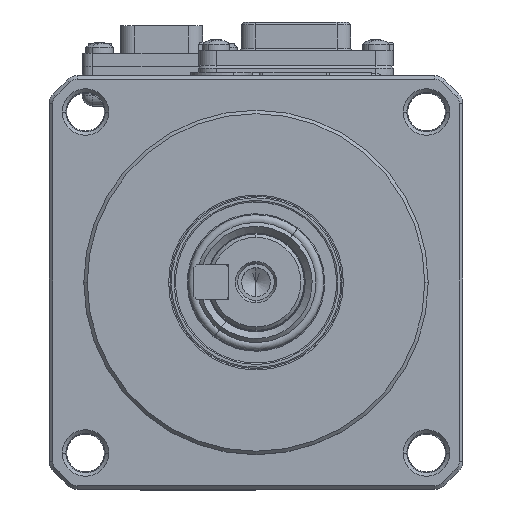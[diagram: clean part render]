
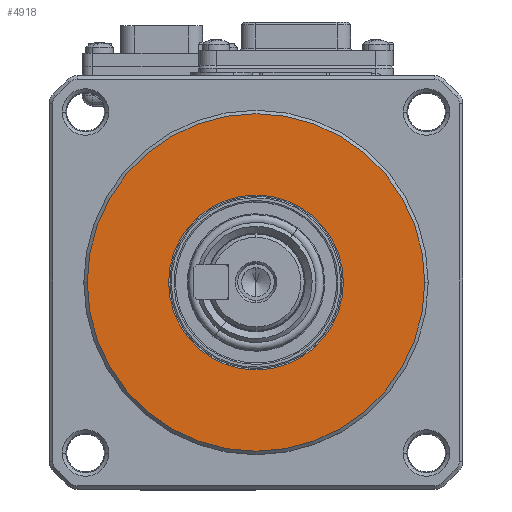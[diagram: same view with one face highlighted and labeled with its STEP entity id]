
A CAD part, top view. The second image highlights one B-rep face of the part: STEP entity #4918.
In plain terms, the highlighted planar face has unit normal (0, 0, 1).
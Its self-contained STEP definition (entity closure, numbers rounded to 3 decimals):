
#1797 = EDGE_CURVE ( 'NONE', #26135, #56628, #40972, .T. ) ;
#4918 = ADVANCED_FACE ( 'NONE', ( #84028, #82511 ), #91890, .F. ) ;
#5867 = DIRECTION ( 'NONE',  ( -1., 0., 0. ) ) ;
#11244 = CARTESIAN_POINT ( 'NONE',  ( 0., 0., 0. ) ) ;
#12859 = VERTEX_POINT ( 'NONE', #49677 ) ;
#13506 = DIRECTION ( 'NONE',  ( -1., 0., 0. ) ) ;
#14024 = DIRECTION ( 'NONE',  ( 0., 0., -1. ) ) ;
#17570 = CIRCLE ( 'NONE', #34145, 24.5 ) ;
#18345 = DIRECTION ( 'NONE',  ( -1., 0., 0. ) ) ;
#20373 = CARTESIAN_POINT ( 'NONE',  ( 0., 12.2, 0. ) ) ;
#26135 = VERTEX_POINT ( 'NONE', #88997 ) ;
#31435 = EDGE_CURVE ( 'NONE', #76419, #12859, #32876, .T. ) ;
#32876 = CIRCLE ( 'NONE', #61179, 12.691 ) ;
#34145 = AXIS2_PLACEMENT_3D ( 'NONE', #11244, #42492, #42991 ) ;
#36594 = CARTESIAN_POINT ( 'NONE',  ( 24.5, 0., 0. ) ) ;
#39343 = AXIS2_PLACEMENT_3D ( 'NONE', #45223, #59858, #77077 ) ;
#40972 = CIRCLE ( 'NONE', #39343, 24.5 ) ;
#42492 = DIRECTION ( 'NONE',  ( 0., 0., 1. ) ) ;
#42589 = ORIENTED_EDGE ( 'NONE', *, *, #89487, .T. ) ;
#42991 = DIRECTION ( 'NONE',  ( 1., 0., 0. ) ) ;
#45223 = CARTESIAN_POINT ( 'NONE',  ( 0., 0., 0. ) ) ;
#47863 = EDGE_LOOP ( 'NONE', ( #42589, #53771 ) ) ;
#49677 = CARTESIAN_POINT ( 'NONE',  ( -12.691, 0., 0. ) ) ;
#53771 = ORIENTED_EDGE ( 'NONE', *, *, #31435, .T. ) ;
#53779 = CARTESIAN_POINT ( 'NONE',  ( 0., 0., 0. ) ) ;
#56628 = VERTEX_POINT ( 'NONE', #36594 ) ;
#59858 = DIRECTION ( 'NONE',  ( 0., 0., 1. ) ) ;
#60369 = EDGE_CURVE ( 'NONE', #56628, #26135, #17570, .T. ) ;
#61179 = AXIS2_PLACEMENT_3D ( 'NONE', #53779, #77325, #5867 ) ;
#62340 = CARTESIAN_POINT ( 'NONE',  ( 12.691, 0., 0. ) ) ;
#64068 = CIRCLE ( 'NONE', #99088, 12.691 ) ;
#76419 = VERTEX_POINT ( 'NONE', #62340 ) ;
#77077 = DIRECTION ( 'NONE',  ( 1., 0., 0. ) ) ;
#77325 = DIRECTION ( 'NONE',  ( 0., 0., -1. ) ) ;
#78296 = EDGE_LOOP ( 'NONE', ( #97467, #89062 ) ) ;
#82511 = FACE_OUTER_BOUND ( 'NONE', #78296, .T. ) ;
#84028 = FACE_BOUND ( 'NONE', #47863, .T. ) ;
#85438 = CARTESIAN_POINT ( 'NONE',  ( 0., 0., 0. ) ) ;
#88997 = CARTESIAN_POINT ( 'NONE',  ( -24.5, 0., 0. ) ) ;
#89062 = ORIENTED_EDGE ( 'NONE', *, *, #60369, .T. ) ;
#89487 = EDGE_CURVE ( 'NONE', #12859, #76419, #64068, .T. ) ;
#90874 = DIRECTION ( 'NONE',  ( 0., 0., -1. ) ) ;
#91890 = PLANE ( 'NONE',  #96808 ) ;
#96808 = AXIS2_PLACEMENT_3D ( 'NONE', #20373, #90874, #18345 ) ;
#97467 = ORIENTED_EDGE ( 'NONE', *, *, #1797, .T. ) ;
#99088 = AXIS2_PLACEMENT_3D ( 'NONE', #85438, #14024, #13506 ) ;
